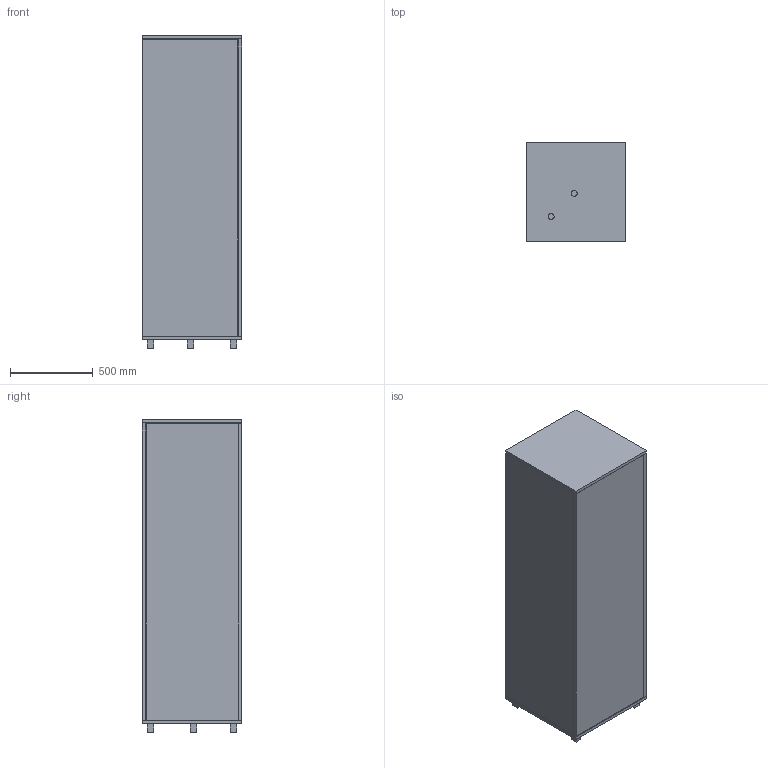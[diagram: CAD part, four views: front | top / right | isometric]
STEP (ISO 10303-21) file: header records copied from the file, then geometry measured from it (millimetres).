
FILE_DESCRIPTION(/* description */ ('STEP AP242','CAx-IF Rec.Pracs.---Representation and Presentation of Product Manufacturing Information (PMI)---4.0---2014-10-13','CAx-IF Rec.Pracs.---3D Tessellated Geometry---0.4---2014-09-14','2;1'),/* implementation_level */ '2;1');
FILE_NAME(/* name */ '9349307+9360943+9360733++(FurnSpin CAD configurator)',/* time_stamp */ '2026-03-16T09:39:28+01:00',/* author */ ('License CC BY-ND 4.0'),/* organization */ ('CADENAS'),/* preprocessor_version */ 'ST-DEVELOPER v20',/* originating_system */ 'PARTsolutions',/* authorisation */ ' ');
FILE_SCHEMA (('CONFIG_CONTROL_DESIGN','AP242_MANAGED_MODEL_BASED_3D_ENGINEERING_MIM_LF { 1 0 10303 442 1 1 4 }'));
Length unit declared in the file: millimetre
Products named in the file (26): 9349307+9360943+9360733++(FurnSpin CAD configurator); 9349307+9360943+9360733++(2_0_0_19_19_581_581_2_2_600_600_19_1800_0__
0_0_0_3_19_19_19_25_0_19_0_19_3_3_7_7_0_40_50)_dummy; fix_furniture_side_panel(2_0_19_19_581_581_2_2_1800_0__0_0_19_3); fix_furniture_bottom_panel(2_0_19_19_581_581_2_2_19_3_3); fix_furniture_top_panel(2_0_19_19_581_581_2_2_19_3_3); fix_furniture_back_panel(2_0_19_19_581_1800_3); spin_furniture_front_panel(2_0_581_2_1800_0_0_3_19_3_3); spin_furniture_side_panel(2_0_581_2_1800_0__0_19_19_3); spin_furniture_top_panel(2_0_581_581_2_2_0__0_19_19_19_3_3_7_7); 9352251; 9352263; 9352259; spin_furniture_bottom_panel(2_0_581_581_2_2_0__0_19_19_25_3_3_7_7); 9352253; 9352281_Cover profile(1785.6_1800_0_3); 9360710_Glass corner profile(1658_2_1800_19_25_19_3_0); 9352269_Back fitting cover(530.5_581_581_2_2_19_19_3_3_7_7); 9352255_matt black; 9352257_matt black; 9352269_Side fitting cover(530.5_581_581_2_2_19_19_3_3_7_7); ARTICLENO._13; furnspin_cpl_bottom_xl; activator_xl; diagonal adjustemnt xl; furnspin_cpl_top_xl; Dummy Leg(40_50_0)
Assembly tree (48 placements, depth 2):
  9349307+9360943+9360733++(FurnSpin CAD configurator)
    9349307+9360943+9360733++(2_0_0_19_19_581_581_2_2_600_600_19_1800_0__
0_0_0_3_19_19_19_25_0_19_0_19_3_3_7_7_0_40_50)_dummy
    fix_furniture_side_panel(2_0_19_19_581_581_2_2_1800_0__0_0_19_3)
    fix_furniture_bottom_panel(2_0_19_19_581_581_2_2_19_3_3)
    fix_furniture_top_panel(2_0_19_19_581_581_2_2_19_3_3)
    fix_furniture_back_panel(2_0_19_19_581_1800_3)
    spin_furniture_front_panel(2_0_581_2_1800_0_0_3_19_3_3)
    spin_furniture_side_panel(2_0_581_2_1800_0__0_19_19_3)
    spin_furniture_top_panel(2_0_581_581_2_2_0__0_19_19_19_3_3_7_7)
    9352251  x2
    9352263  x10
    9352259  x2
    spin_furniture_bottom_panel(2_0_581_581_2_2_0__0_19_19_25_3_3_7_7)
    9352253  x4
    9352281_Cover profile(1785.6_1800_0_3)
    9360710_Glass corner profile(1658_2_1800_19_25_19_3_0)
    9352269_Back fitting cover(530.5_581_581_2_2_19_19_3_3_7_7)  x2
    9352255_matt black  x2
    9352257_matt black  x2
    9352269_Side fitting cover(530.5_581_581_2_2_19_19_3_3_7_7)  x2
    ARTICLENO._13
    furnspin_cpl_bottom_xl
    activator_xl  x2
    diagonal adjustemnt xl
    furnspin_cpl_top_xl
    Dummy Leg(40_50_0)  x5
Bounding box: 600 x 600 x 1888 mm (x, y, z)
Volume: 113039596.6 mm3; surface area: 13489915.6 mm2
Topology: 47 solids, 47 shells, 1113 faces, 2888 edges, 1930 vertices
Faces by surface type: plane 975, cylinder 137, cone 1
Full cylindrical faces by diameter (mm): 3 x1, 4.2 x18, 4.5 x21, 5 x24, 8.3 x1, 10 x2, 10.3 x1, 13 x1, 14 x3, 15 x1, 16 x4, 16.65 x1, 19.5 x2, 25 x2, 35 x9, 62.524 x1, 125 x1, 156 x1, 157 x1
Entity records: 19642 total; most frequent: CARTESIAN_POINT 3302, DIRECTION 3132, ORIENTED_EDGE 3072, EDGE_CURVE 1536, LINE 1318, VECTOR 1318, VERTEX_POINT 1076, AXIS2_PLACEMENT_3D 907
